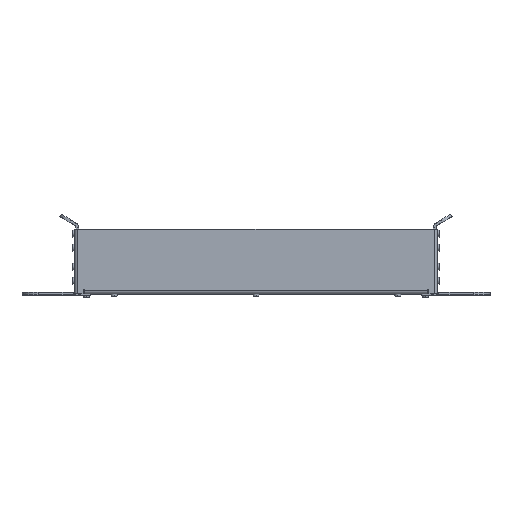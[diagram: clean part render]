
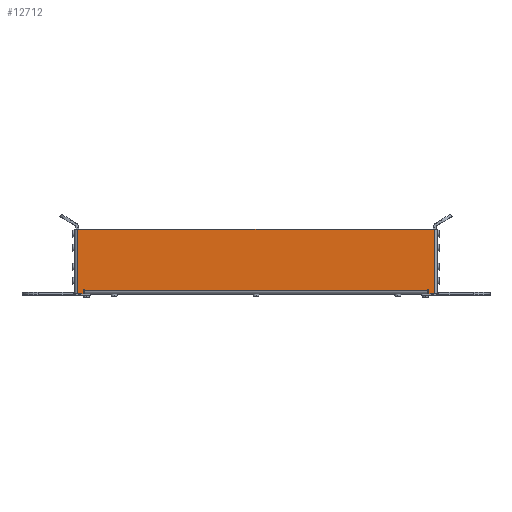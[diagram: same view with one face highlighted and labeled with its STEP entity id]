
A CAD part, top view. The second image highlights one B-rep face of the part: STEP entity #12712.
In plain terms, the highlighted planar face has unit normal (0, 0, 1).
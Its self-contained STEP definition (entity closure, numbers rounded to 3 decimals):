
#39 = EDGE_CURVE ( 'NONE', #11348, #3544, #11100, .T. ) ;
#65 = VECTOR ( 'NONE', #10282, 1000. ) ;
#216 = LINE ( 'NONE', #5265, #2617 ) ;
#221 = VERTEX_POINT ( 'NONE', #9794 ) ;
#312 = ORIENTED_EDGE ( 'NONE', *, *, #3439, .T. ) ;
#345 = CARTESIAN_POINT ( 'NONE',  ( -325., 0.5, 0. ) ) ;
#358 = CARTESIAN_POINT ( 'NONE',  ( -8.75, 3.5, 0. ) ) ;
#368 = CARTESIAN_POINT ( 'NONE',  ( -324.5, 0.5, 0. ) ) ;
#654 = DIRECTION ( 'NONE',  ( 1., 0., 0. ) ) ;
#905 = LINE ( 'NONE', #4000, #9468 ) ;
#1039 = DIRECTION ( 'NONE',  ( 0., -1., 0. ) ) ;
#1057 = ORIENTED_EDGE ( 'NONE', *, *, #2151, .T. ) ;
#1319 = CARTESIAN_POINT ( 'NONE',  ( -324.25, 3.5, 0. ) ) ;
#1363 = DIRECTION ( 'NONE',  ( 1., 0., 0. ) ) ;
#1373 = DIRECTION ( 'NONE',  ( 1., 0., 0. ) ) ;
#1388 = EDGE_CURVE ( 'NONE', #221, #4833, #8633, .T. ) ;
#1484 = CARTESIAN_POINT ( 'NONE',  ( -324., 3., 0. ) ) ;
#1493 = ORIENTED_EDGE ( 'NONE', *, *, #1388, .T. ) ;
#1629 = ORIENTED_EDGE ( 'NONE', *, *, #5130, .T. ) ;
#1856 = DIRECTION ( 'NONE',  ( 0., 0., 1. ) ) ;
#2151 = EDGE_CURVE ( 'NONE', #3485, #2826, #9580, .T. ) ;
#2175 = DIRECTION ( 'NONE',  ( 0., 1., 0. ) ) ;
#2379 = DIRECTION ( 'NONE',  ( 1., 0., 0. ) ) ;
#2617 = VECTOR ( 'NONE', #2175, 1000. ) ;
#2685 = LINE ( 'NONE', #9508, #7903 ) ;
#2705 = CIRCLE ( 'NONE', #13086, 0.5 ) ;
#2809 = VECTOR ( 'NONE', #1039, 1000. ) ;
#2826 = VERTEX_POINT ( 'NONE', #5595 ) ;
#2827 = FACE_OUTER_BOUND ( 'NONE', #12745, .T. ) ;
#3040 = CARTESIAN_POINT ( 'NONE',  ( -330., 59., 0. ) ) ;
#3155 = ORIENTED_EDGE ( 'NONE', *, *, #12827, .T. ) ;
#3439 = EDGE_CURVE ( 'NONE', #13340, #9947, #2685, .T. ) ;
#3485 = VERTEX_POINT ( 'NONE', #5441 ) ;
#3544 = VERTEX_POINT ( 'NONE', #9631 ) ;
#3568 = ORIENTED_EDGE ( 'NONE', *, *, #7904, .T. ) ;
#4000 = CARTESIAN_POINT ( 'NONE',  ( -328., 59., 0. ) ) ;
#4063 = VECTOR ( 'NONE', #12117, 1000. ) ;
#4389 = DIRECTION ( 'NONE',  ( 1., 0., 0. ) ) ;
#4833 = VERTEX_POINT ( 'NONE', #7643 ) ;
#4920 = LINE ( 'NONE', #10361, #2809 ) ;
#5103 = ORIENTED_EDGE ( 'NONE', *, *, #6472, .T. ) ;
#5130 = EDGE_CURVE ( 'NONE', #3544, #10862, #4920, .T. ) ;
#5154 = ORIENTED_EDGE ( 'NONE', *, *, #39, .T. ) ;
#5158 = ORIENTED_EDGE ( 'NONE', *, *, #11659, .T. ) ;
#5265 = CARTESIAN_POINT ( 'NONE',  ( -324.5, 0., 0. ) ) ;
#5441 = CARTESIAN_POINT ( 'NONE',  ( -3., 0., 0. ) ) ;
#5595 = CARTESIAN_POINT ( 'NONE',  ( -3., 59., 0. ) ) ;
#5751 = LINE ( 'NONE', #10606, #6064 ) ;
#5773 = VECTOR ( 'NONE', #6936, 1000. ) ;
#5844 = CARTESIAN_POINT ( 'NONE',  ( -166.5, 0., 0. ) ) ;
#6064 = VECTOR ( 'NONE', #2379, 1000. ) ;
#6472 = EDGE_CURVE ( 'NONE', #12229, #3485, #10592, .T. ) ;
#6829 = EDGE_CURVE ( 'NONE', #10862, #13340, #5751, .T. ) ;
#6869 = DIRECTION ( 'NONE',  ( 1., 0., 0. ) ) ;
#6936 = DIRECTION ( 'NONE',  ( 0., -1., 0. ) ) ;
#7022 = ORIENTED_EDGE ( 'NONE', *, *, #6829, .T. ) ;
#7428 = CARTESIAN_POINT ( 'NONE',  ( -325., 0., 0. ) ) ;
#7504 = CARTESIAN_POINT ( 'NONE',  ( -328., 0., 0. ) ) ;
#7597 = DIRECTION ( 'NONE',  ( 0., 0., 1. ) ) ;
#7611 = DIRECTION ( 'NONE',  ( 0., 0., -1. ) ) ;
#7643 = CARTESIAN_POINT ( 'NONE',  ( -330., 0., 0. ) ) ;
#7788 = EDGE_CURVE ( 'NONE', #12534, #11348, #216, .T. ) ;
#7849 = EDGE_CURVE ( 'NONE', #4833, #13010, #12640, .T. ) ;
#7903 = VECTOR ( 'NONE', #10542, 1000. ) ;
#7904 = EDGE_CURVE ( 'NONE', #9947, #10308, #9258, .T. ) ;
#8022 = CARTESIAN_POINT ( 'NONE',  ( -9., 3., 0. ) ) ;
#8075 = CARTESIAN_POINT ( 'NONE',  ( -8., 0.5, 0. ) ) ;
#8171 = EDGE_CURVE ( 'NONE', #11127, #12229, #11298, .T. ) ;
#8206 = CARTESIAN_POINT ( 'NONE',  ( -9., 3.5, 0. ) ) ;
#8262 = ORIENTED_EDGE ( 'NONE', *, *, #8171, .T. ) ;
#8280 = ORIENTED_EDGE ( 'NONE', *, *, #7849, .T. ) ;
#8633 = LINE ( 'NONE', #3040, #65 ) ;
#8681 = CARTESIAN_POINT ( 'NONE',  ( -8., 0., 0. ) ) ;
#8813 = CARTESIAN_POINT ( 'NONE',  ( -8.5, 3.5, 0. ) ) ;
#9094 = DIRECTION ( 'NONE',  ( 1., 0., 0. ) ) ;
#9140 = CARTESIAN_POINT ( 'NONE',  ( -324.5, 3.5, 0. ) ) ;
#9148 = LINE ( 'NONE', #10039, #5773 ) ;
#9258 = CIRCLE ( 'NONE', #10257, 0.25 ) ;
#9308 = AXIS2_PLACEMENT_3D ( 'NONE', #8075, #1856, #9094 ) ;
#9468 = VECTOR ( 'NONE', #11224, 1000. ) ;
#9508 = CARTESIAN_POINT ( 'NONE',  ( -9., 0., 0. ) ) ;
#9580 = LINE ( 'NONE', #10044, #4063 ) ;
#9631 = CARTESIAN_POINT ( 'NONE',  ( -324., 3.5, 0. ) ) ;
#9787 = CARTESIAN_POINT ( 'NONE',  ( -8.5, 0.5, 0. ) ) ;
#9794 = CARTESIAN_POINT ( 'NONE',  ( -330., 59., 0. ) ) ;
#9903 = CARTESIAN_POINT ( 'NONE',  ( -328., 0., 0. ) ) ;
#9930 = PLANE ( 'NONE',  #11804 ) ;
#9947 = VERTEX_POINT ( 'NONE', #8206 ) ;
#10039 = CARTESIAN_POINT ( 'NONE',  ( -8.5, 0., 0. ) ) ;
#10044 = CARTESIAN_POINT ( 'NONE',  ( -3., 0., 0. ) ) ;
#10257 = AXIS2_PLACEMENT_3D ( 'NONE', #358, #7611, #1373 ) ;
#10282 = DIRECTION ( 'NONE',  ( 0., -1., 0. ) ) ;
#10308 = VERTEX_POINT ( 'NONE', #8813 ) ;
#10361 = CARTESIAN_POINT ( 'NONE',  ( -324., 0., 0. ) ) ;
#10411 = EDGE_CURVE ( 'NONE', #10308, #11127, #9148, .T. ) ;
#10504 = DIRECTION ( 'NONE',  ( 0., 0., -1. ) ) ;
#10542 = DIRECTION ( 'NONE',  ( 0., 1., 0. ) ) ;
#10592 = LINE ( 'NONE', #9903, #13325 ) ;
#10606 = CARTESIAN_POINT ( 'NONE',  ( -324., 3., 0. ) ) ;
#10862 = VERTEX_POINT ( 'NONE', #1484 ) ;
#11100 = CIRCLE ( 'NONE', #12884, 0.25 ) ;
#11127 = VERTEX_POINT ( 'NONE', #9787 ) ;
#11224 = DIRECTION ( 'NONE',  ( -1., 0., 0. ) ) ;
#11298 = CIRCLE ( 'NONE', #9308, 0.5 ) ;
#11348 = VERTEX_POINT ( 'NONE', #9140 ) ;
#11659 = EDGE_CURVE ( 'NONE', #13010, #12534, #2705, .T. ) ;
#11804 = AXIS2_PLACEMENT_3D ( 'NONE', #5844, #13056, #6869 ) ;
#12035 = ORIENTED_EDGE ( 'NONE', *, *, #10411, .T. ) ;
#12117 = DIRECTION ( 'NONE',  ( 0., 1., 0. ) ) ;
#12229 = VERTEX_POINT ( 'NONE', #8681 ) ;
#12319 = VECTOR ( 'NONE', #4389, 1000. ) ;
#12422 = DIRECTION ( 'NONE',  ( 1., 0., 0. ) ) ;
#12534 = VERTEX_POINT ( 'NONE', #368 ) ;
#12568 = ORIENTED_EDGE ( 'NONE', *, *, #7788, .T. ) ;
#12640 = LINE ( 'NONE', #7504, #12319 ) ;
#12712 = ADVANCED_FACE ( 'NONE', ( #2827 ), #9930, .T. ) ;
#12745 = EDGE_LOOP ( 'NONE', ( #8280, #5158, #12568, #5154, #1629, #7022, #312, #3568, #12035, #8262, #5103, #1057, #3155, #1493 ) ) ;
#12827 = EDGE_CURVE ( 'NONE', #2826, #221, #905, .T. ) ;
#12884 = AXIS2_PLACEMENT_3D ( 'NONE', #1319, #10504, #12422 ) ;
#13010 = VERTEX_POINT ( 'NONE', #7428 ) ;
#13056 = DIRECTION ( 'NONE',  ( 0., 0., 1. ) ) ;
#13086 = AXIS2_PLACEMENT_3D ( 'NONE', #345, #7597, #1363 ) ;
#13325 = VECTOR ( 'NONE', #654, 1000. ) ;
#13340 = VERTEX_POINT ( 'NONE', #8022 ) ;
